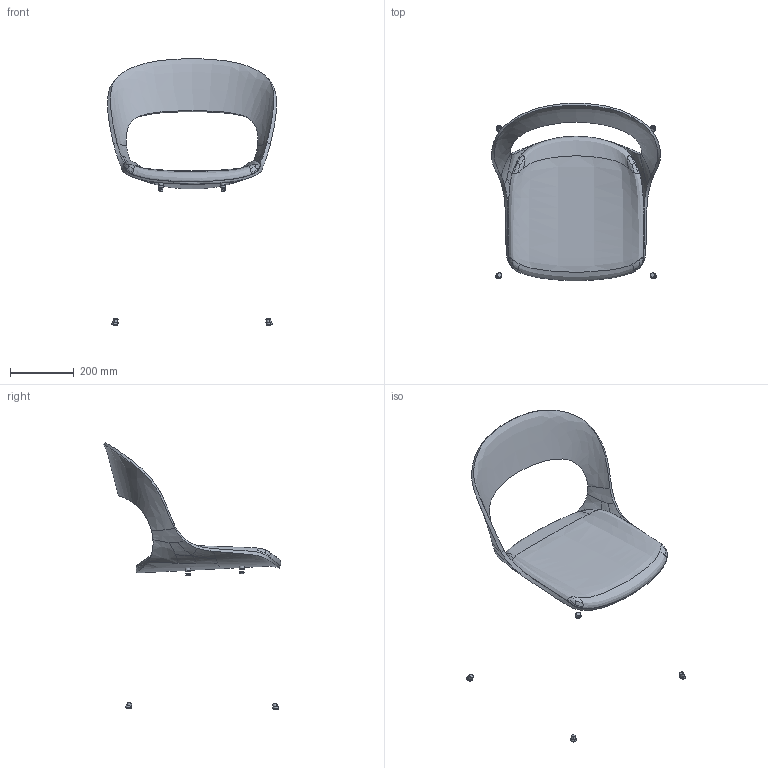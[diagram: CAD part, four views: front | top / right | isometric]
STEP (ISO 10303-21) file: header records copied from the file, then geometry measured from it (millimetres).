
FILE_DESCRIPTION(/* description */ (''),/* implementation_level */ '2;1');
FILE_NAME(/* name */ 'LT-02-H-2N',/* time_stamp */ '2025-06-13T07:25:16+02:00',/* author */ (''),/* organization */ (''),/* preprocessor_version */ 'ST-DEVELOPER v19.2',/* originating_system */ 'Rhino 8.19',/* authorisation */ '');
FILE_SCHEMA (('AUTOMOTIVE_DESIGN_CC2'));
Length unit declared in the file: millimetre
Products named in the file (1): Document
Bounding box: 529.3 x 555.66 x 834.59 mm (x, y, z)
Volume: 3553349.6 mm3; surface area: 865327 mm2
Topology: 6 solids, 15 shells, 119 faces, 290 edges, 184 vertices
Faces by surface type: bspline 83, cylinder 24, plane 12
Full cylindrical faces by diameter (mm): 14 x4, 16 x4
Entity records: 16709 total; most frequent: CARTESIAN_POINT 14480, ORIENTED_EDGE 536, EDGE_CURVE 278, DIRECTION 194, B_SPLINE_CURVE_WITH_KNOTS 190, VERTEX_POINT 184, EDGE_LOOP 127, ADVANCED_FACE 119
